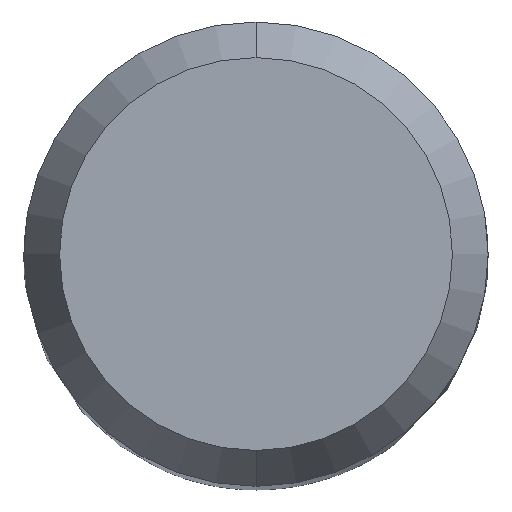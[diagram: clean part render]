
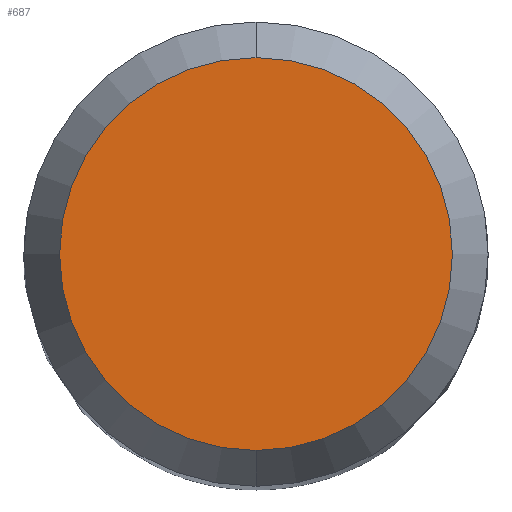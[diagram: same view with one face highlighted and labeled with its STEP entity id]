
A CAD part, top view. The second image highlights one B-rep face of the part: STEP entity #687.
In plain terms, the highlighted planar face has unit normal (0, 0, 1).
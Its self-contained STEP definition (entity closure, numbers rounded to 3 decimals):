
#433=EDGE_CURVE('',#809,#873,#1236,.T.);
#667=EDGE_CURVE('',#873,#809,#1486,.T.);
#687=ADVANCED_FACE('',(#1509),#1510,.T.);
#809=VERTEX_POINT('',#1643);
#873=VERTEX_POINT('',#1715);
#1236=CIRCLE('',#2108,2.538);
#1486=CIRCLE('',#3326,2.538);
#1509=FACE_OUTER_BOUND('',#3482,.T.);
#1510=PLANE('',#3483);
#1643=CARTESIAN_POINT('',(0.0,2.538,0.0));
#1715=CARTESIAN_POINT('',(0.,-2.538,0.0));
#2108=AXIS2_PLACEMENT_3D('',#6027,#6028,#6029);
#3326=AXIS2_PLACEMENT_3D('',#6260,#6261,#6262);
#3482=EDGE_LOOP('',(#6301,#6302));
#3483=AXIS2_PLACEMENT_3D('',#6303,#6304,#6305);
#6027=CARTESIAN_POINT('',(0.0,0.0,0.0));
#6028=DIRECTION('',(0.0,0.0,-1.0));
#6029=DIRECTION('',(0.0,1.0,0.0));
#6260=CARTESIAN_POINT('',(0.0,0.0,0.0));
#6261=DIRECTION('',(0.0,0.0,-1.0));
#6262=DIRECTION('',(0.0,1.0,0.0));
#6301=ORIENTED_EDGE('',*,*,#433,.F.);
#6302=ORIENTED_EDGE('',*,*,#667,.F.);
#6303=CARTESIAN_POINT('',(0.0,1.269,0.0));
#6304=DIRECTION('',(-0.0,0.0,1.0));
#6305=DIRECTION('',(0.0,-1.0,0.0));
